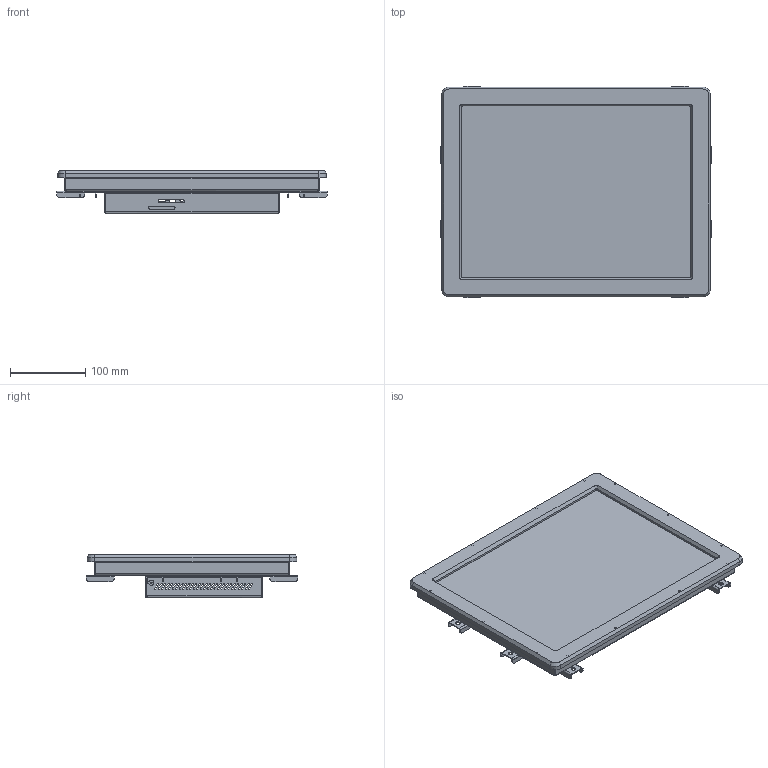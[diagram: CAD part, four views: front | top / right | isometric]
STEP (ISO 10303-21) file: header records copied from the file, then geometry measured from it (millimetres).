
FILE_DESCRIPTION(('STEP AP242'), '1');
FILE_NAME('Ñáîðêà_Dna15', '', ('UNSPECIFIED'), ('UNSPECIFIED'), 'C3D Converter', 'C3D Toolkit', '');
FILE_SCHEMA(('AP242_MANAGED_MODEL_BASED_3D_ENGINEERING_MIM_LF { 1 0 10303 442 1 1 4 }'));
Length unit declared in the file: millimetre
Bounding box: 358.53 x 280.5 x 58 mm (x, y, z)
Volume: 636383.9 mm3; surface area: 562698.6 mm2
Topology: 1 solids, 1 shells, 3510 faces, 9685 edges, 6356 vertices
Faces by surface type: plane 1746, extrusion 894, cylinder 822, bspline 40, cone 8
Full cylindrical faces by diameter (mm): 1.6 x8, 2 x4, 2.4 x9, 2.5 x18, 3.5 x14, 4 x6, 4.2 x8, 4.22 x6, 4.35 x9, 6 x8, 6.1 x4
Entity records: 143603 total; most frequent: CARTESIAN_POINT 27480, ORIENTED_EDGE 19182, DIRECTION 15381, EDGE_CURVE 9591, VECTOR 7007, VERTEX_POINT 6356, LINE 6113, EDGE_LOOP 4405
